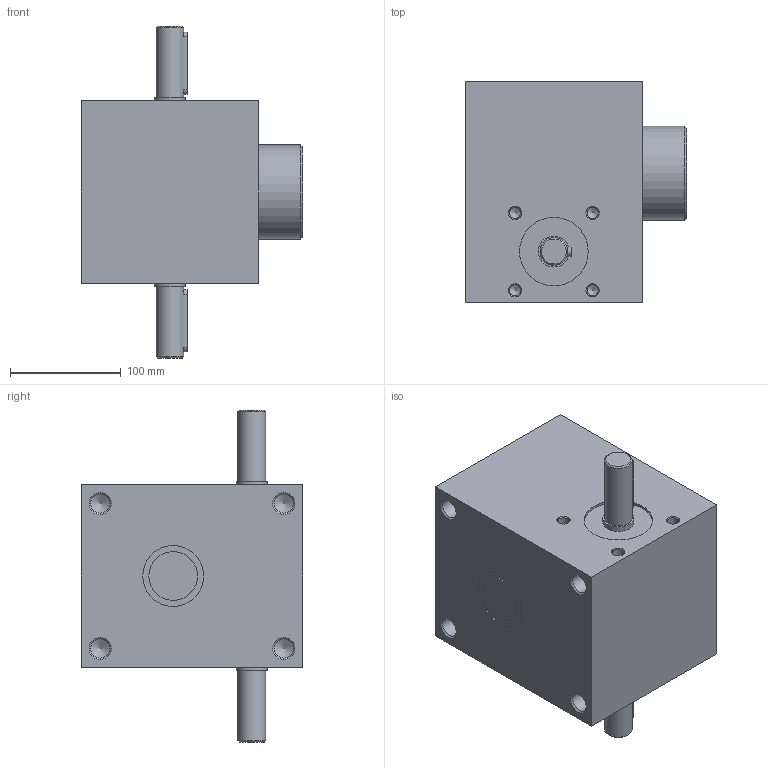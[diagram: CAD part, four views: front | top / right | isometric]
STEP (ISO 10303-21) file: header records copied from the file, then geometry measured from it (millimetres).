
FILE_DESCRIPTION(/* description */ (''),/* implementation_level */ '2;1');
FILE_NAME(/* name */ 'D:\FOLDER Tomasz Michałek\pliki z pulpitu\Katalogi przekładni\Podnośniki śrubowe\Pivexin Technology\Podnosniki - potrzebne\Modele podnosnikow\R\SG100\M5-R-361\SG100-R-L.stp',/* time_stamp */ '2016-06-07T22:36:35+02:00',/* author */ ('Tomasz'),/* organization */ (''),/* preprocessor_version */ 'ST-DEVELOPER v16.1',/* originating_system */ 'Autodesk Inventor 2016',/* authorisation */ '');
FILE_SCHEMA (('AUTOMOTIVE_DESIGN { 1 0 10303 214 3 1 1 }'));
Length unit declared in the file: millimetre
Products named in the file (3): HI_NEFF M5-9_1-R-Tr55x9-1; HI_NEFF M5-R-Tr55x9-4; SG100-R-H
Assembly tree (2 placements, depth 2):
  SG100-R-H
    HI_NEFF M5-9_1-R-Tr55x9-1
    HI_NEFF M5-R-Tr55x9-4
Bounding box: 200 x 200 x 300 mm (x, y, z)
Volume: 5013089.4 mm3; surface area: 288307.8 mm2
Topology: 2 solids, 2 shells, 87 faces, 187 edges, 114 vertices
Faces by surface type: cone 35, cylinder 30, plane 22
Full cylindrical faces by diameter (mm): 10.106 x8, 17.294 x8, 25 x2, 28 x2, 44 x1, 55 x2, 62 x2, 85 x1
Entity records: 1993 total; most frequent: DIRECTION 362, CARTESIAN_POINT 362, ORIENTED_EDGE 214, AXIS2_PLACEMENT_3D 167, EDGE_LOOP 160, EDGE_CURVE 107, VERTEX_POINT 95, FACE_OUTER_BOUND 87
